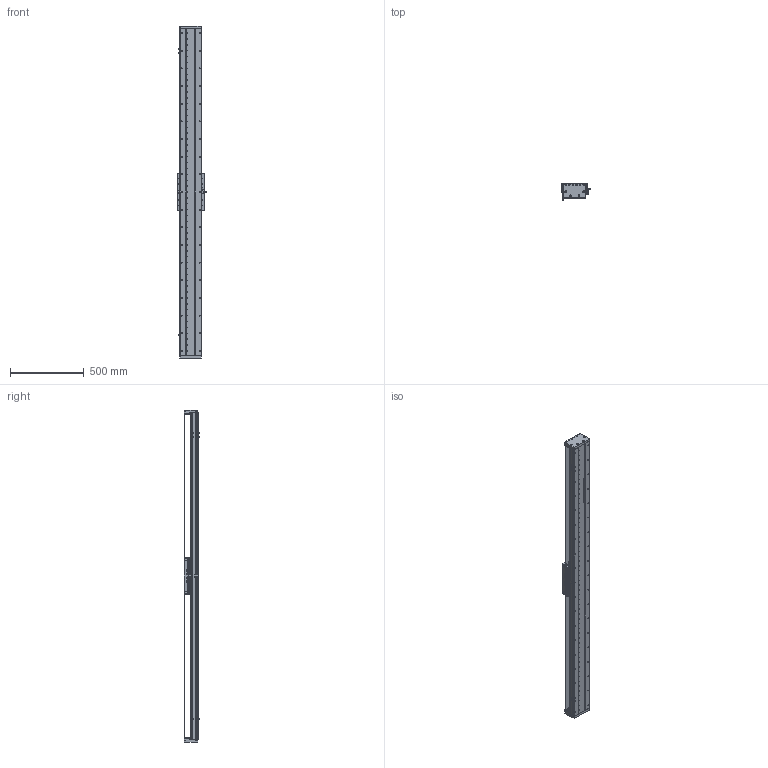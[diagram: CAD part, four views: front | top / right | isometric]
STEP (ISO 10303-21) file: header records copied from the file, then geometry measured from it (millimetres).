
FILE_DESCRIPTION (( 'STEP AP203' ), '1' );
FILE_NAME ('DA-C145-C3-T1920-C010-0.2 眻盄萇儂.STEP', '2025-08-14T01:29:44', ( '' ), ( '' ), 'SwSTEP 2.0', 'SolidWorks 2019', '' );
FILE_SCHEMA (( 'CONFIG_CONTROL_DESIGN' ));
Length unit declared in the file: millimetre
Products named in the file (32): 葩璃 DA95-GT-T-00^IU-CU145-L 菁釱絳寢; 复件 DA146 钢带垫块^复件 CU145 钢带组件_DA-C145-C3-T-C010-0.2; 复件 DA95-MFP-01 密封片^CU145-W 滚珠滑台; 复件 DA145-GYP-00 光电感应片^DA-C145-C3-T-C010-0.2; IU-CU145-L-00 菁釱(L2220); 葩璃 XD-U-02L 棠掑喜^DA-C145-C3-T-C010-0.2; 复件 DA95-DB-00  挡板^CU145-W 滚珠滑台; TAY01-M8; CU145-W 幗紩賑怢; 葩璃 DA145-C3-DP-B-00 菜えB^CU145-W 幗紩賑怢; 葩璃 DA95-HXJ-00 遣喳砎蝶^DA-C145-C3-T-C010-0.2; 复件 纯铜油杯 6x6mm^CU145-W 滚珠滑台; 复件 DA145-C3-DK-00 挡块^CU145-W 滚珠滑台; 复件 DA145 钢带^复件 CU145 钢带组件_DA-C145-C3-T-C010-0.2; DA-C145-C3-T1920-C010-0.2 眻盄萇儂; 复件 内六角平端紧定螺钉 GB.T77-2000 M5×10^CU145-W 滚珠滑台; IU-CU145-L 菁釱絳寢; CU145-W-00 珨极趙賑雄怢啣; 复件 DA145-C3-YB-B-00 压板B^CU145-W 滚珠滑台; 葩璃 CKM03-W060-C1C2-TP-0.2^DA-C145-C3-T-C010-0.2; 复件 DA95-HK-GT-00 滑块钢轨^CU145-W-00 一体化滑动台板; 葩璃 CU145 詩湍郪璃^DA-C145-C3-T-C010-0.2; 葩璃 CKMA01-W060-TRL^DA-C145-C3-T-C010-0.2; 葩璃 DA145-C3-DP-A-00 菜えA^CU145-W 幗紩賑怢; 66245-CU145-HT-W-00 賑雄怢啣(3D芞祧)(00); 复件 半圆头内六角螺钉 M3×6^CU145-W 滚珠滑台; 葩璃 PM-T45^DA-C145-C3-T-C010-0.2; 葩璃 DMA-010-0.2 黍杅芛^DA-C145-C3-T-C010-0.2; 复件 DA145-C3-YB-A-00 压板A^CU145-W 滚珠滑台; 复件 DA145-DG 钢带端盖^复件 CU145 钢带组件_DA-C145-C3-T-C010-0.2; 复件 DA146 钢带拉块^复件 CU145 钢带组件_DA-C145-C3-T-C010-0.2; 葩璃 鞠褒情蹟譫 M3^DA-C145-C3-T-C010-0.2
Assembly tree (103 placements, depth 4):
  DA-C145-C3-T1920-C010-0.2 眻盄萇儂
    IU-CU145-L 菁釱絳寢
      IU-CU145-L-00 菁釱(L2220)
      葩璃 DA95-GT-T-00^IU-CU145-L 菁釱絳寢  x4
    葩璃 CU145 詩湍郪璃^DA-C145-C3-T-C010-0.2
      复件 DA145-DG 钢带端盖^复件 CU145 钢带组件_DA-C145-C3-T-C010-0.2  x2
      复件 DA146 钢带拉块^复件 CU145 钢带组件_DA-C145-C3-T-C010-0.2  x2
      复件 DA146 钢带垫块^复件 CU145 钢带组件_DA-C145-C3-T-C010-0.2  x2
      复件 DA145 钢带^复件 CU145 钢带组件_DA-C145-C3-T-C010-0.2
    CU145-W 幗紩賑怢
      CU145-W-00 珨极趙賑雄怢啣
        66245-CU145-HT-W-00 賑雄怢啣(3D芞祧)(00)
        复件 DA95-HK-GT-00 滑块钢轨^CU145-W-00 一体化滑动台板  x8
      复件 DA95-MFP-01 密封片^CU145-W 滚珠滑台  x8
      复件 DA95-DB-00  挡板^CU145-W 滚珠滑台  x8
      复件 内六角平端紧定螺钉 GB.T77-2000 M5×10^CU145-W 滚珠滑台  x4
      复件 纯铜油杯 6x6mm^CU145-W 滚珠滑台  x4
      复件 半圆头内六角螺钉 M3×6^CU145-W 滚珠滑台  x16
      复件 DA145-C3-DK-00 挡块^CU145-W 滚珠滑台  x4
      葩璃 DA145-C3-DP-B-00 菜えB^CU145-W 幗紩賑怢  x2
      复件 DA145-C3-YB-B-00 压板B^CU145-W 滚珠滑台  x2
      葩璃 DA145-C3-DP-A-00 菜えA^CU145-W 幗紩賑怢  x3
      复件 DA145-C3-YB-A-00 压板A^CU145-W 滚珠滑台  x3
      TAY01-M8  x4
    葩璃 CKMA01-W060-TRL^DA-C145-C3-T-C010-0.2
    葩璃 PM-T45^DA-C145-C3-T-C010-0.2  x3
    葩璃 XD-U-02L 棠掑喜^DA-C145-C3-T-C010-0.2
    葩璃 DA95-HXJ-00 遣喳砎蝶^DA-C145-C3-T-C010-0.2  x4
    复件 DA145-GYP-00 光电感应片^DA-C145-C3-T-C010-0.2
    葩璃 DMA-010-0.2 黍杅芛^DA-C145-C3-T-C010-0.2
    葩璃 CKM03-W060-C1C2-TP-0.2^DA-C145-C3-T-C010-0.2
    葩璃 鞠褒情蹟譫 M3^DA-C145-C3-T-C010-0.2  x8
Bounding box: 203.5 x 108.45 x 2256 mm (x, y, z)
Volume: 10958717.2 mm3; surface area: 3607947.2 mm2
Topology: 99 solids, 131 shells, 4512 faces, 12680 edges, 7918 vertices
Faces by surface type: cylinder 2154, plane 1590, cone 690, torus 74, sphere 4
Entity records: 119226 total; most frequent: CARTESIAN_POINT 34428, ORIENTED_EDGE 16880, DIRECTION 16303, EDGE_CURVE 8440, AXIS2_PLACEMENT_3D 6116, VERTEX_POINT 5457, VECTOR 4071, LINE 4071
